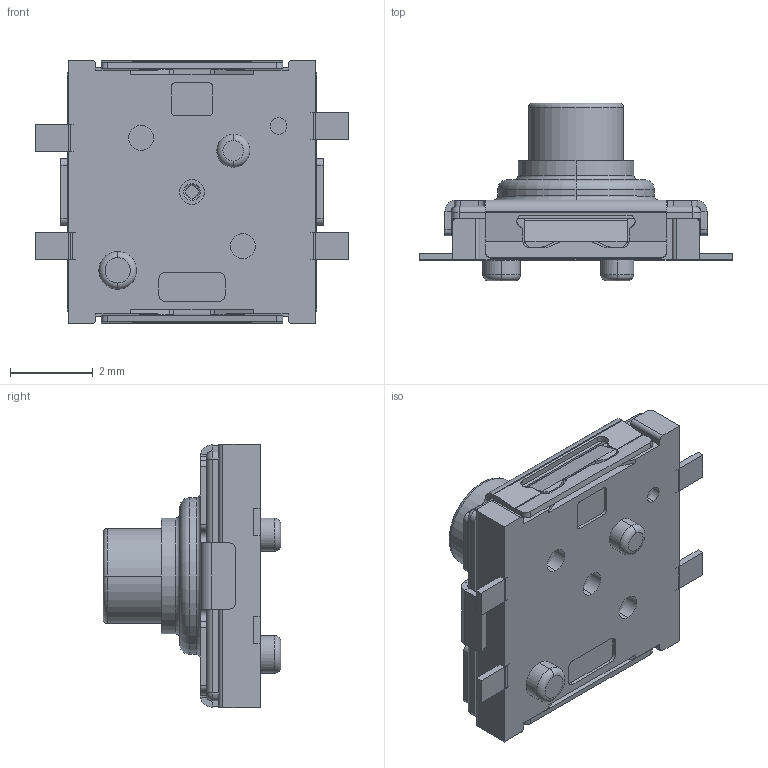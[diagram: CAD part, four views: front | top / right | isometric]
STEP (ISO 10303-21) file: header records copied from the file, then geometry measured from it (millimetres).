
FILE_DESCRIPTION (( 'STEP AP203' ), '1' );
FILE_NAME ('TC055.STEP', '2024-08-21T05:48:29', ( '' ), ( '' ), 'SwSTEP 2.0', 'SolidWorks 2023', '' );
FILE_SCHEMA (( 'CONFIG_CONTROL_DESIGN' ));
Length unit declared in the file: millimetre
Products named in the file (8): 1防水硅胶按钮.STEP; 1基座5.STEP; 中泡.STEP; TC055; 零件5.STEP; 两段式轻触开关3D.STEP; 边泡1.STEP; 1盖板4.STEP
Assembly tree (8 placements, depth 3):
  TC055
    两段式轻触开关3D.STEP
      1基座5.STEP
      边泡1.STEP  x2
      中泡.STEP
      零件5.STEP
      1防水硅胶按钮.STEP
      1盖板4.STEP
Bounding box: 7.6 x 4.3 x 6.38 mm (x, y, z)
Volume: 67.3 mm3; surface area: 343 mm2
Topology: 7 solids, 7 shells, 751 faces, 1905 edges, 1200 vertices
Faces by surface type: plane 435, cylinder 192, bspline 88, torus 36
Entity records: 25953 total; most frequent: CARTESIAN_POINT 8086, ORIENTED_EDGE 3650, DIRECTION 3337, EDGE_CURVE 1825, VECTOR 1199, LINE 1199, VERTEX_POINT 1152, AXIS2_PLACEMENT_3D 1069
